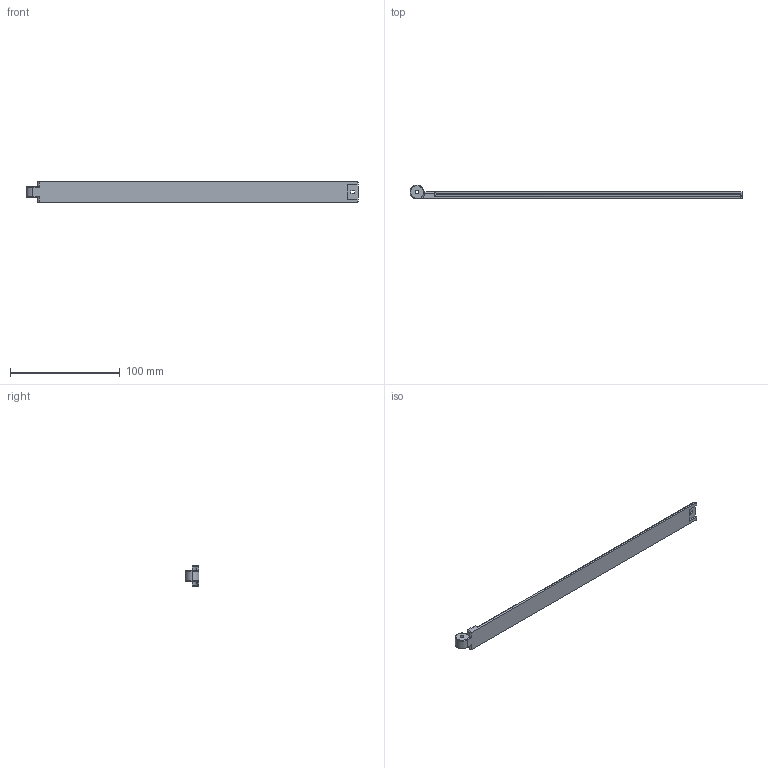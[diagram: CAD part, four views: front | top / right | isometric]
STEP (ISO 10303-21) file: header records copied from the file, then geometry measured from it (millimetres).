
FILE_DESCRIPTION (( 'STEP AP214' ), '1' );
FILE_NAME ('Base Track.STEP', '2021-11-17T20:31:18', ( '' ), ( '' ), 'SwSTEP 2.0', 'SolidWorks 2021', '' );
FILE_SCHEMA (( 'AUTOMOTIVE_DESIGN' ));
Length unit declared in the file: inch
Products named in the file (1): Base Track
Bounding box: 302.89 x 12.7 x 19.05 mm (x, y, z)
Volume: 25253.4 mm3; surface area: 17207.5 mm2
Topology: 1 solids, 1 shells, 63 faces, 166 edges, 103 vertices
Faces by surface type: plane 31, cylinder 25, torus 5, sphere 2
Entity records: 2010 total; most frequent: CARTESIAN_POINT 408, ORIENTED_EDGE 328, DIRECTION 326, EDGE_CURVE 164, AXIS2_PLACEMENT_3D 109, LINE 108, VECTOR 108, VERTEX_POINT 103
